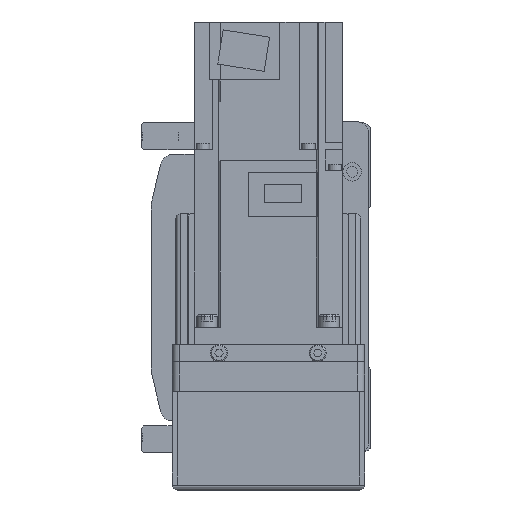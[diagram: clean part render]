
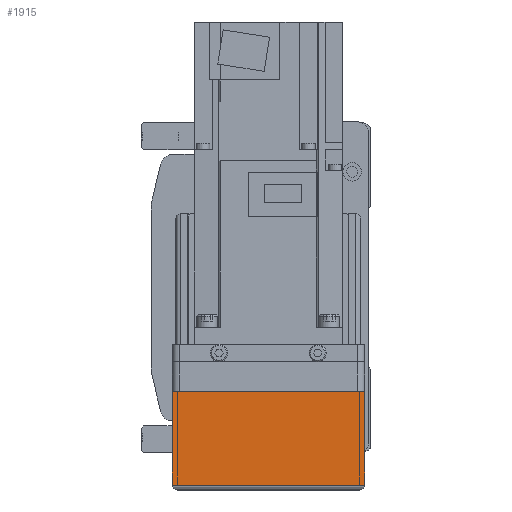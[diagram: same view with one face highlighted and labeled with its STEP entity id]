
A CAD part, left-side view. The second image highlights one B-rep face of the part: STEP entity #1915.
In plain terms, the highlighted planar face has unit normal (-1, 0, 0).
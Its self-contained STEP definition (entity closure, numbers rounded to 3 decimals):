
#1915 = ADVANCED_FACE( '', ( #4536 ), #4537, .F. );
#4536 = FACE_OUTER_BOUND( '', #8040, .T. );
#4537 = PLANE( '', #8041 );
#8040 = EDGE_LOOP( '', ( #13336, #13337, #13338, #13339 ) );
#8041 = AXIS2_PLACEMENT_3D( '', #13340, #13341, #13342 );
#13336 = ORIENTED_EDGE( '', *, *, #20463, .F. );
#13337 = ORIENTED_EDGE( '', *, *, #21397, .F. );
#13338 = ORIENTED_EDGE( '', *, *, #21398, .T. );
#13339 = ORIENTED_EDGE( '', *, *, #21374, .F. );
#13340 = CARTESIAN_POINT( '', ( -158., 36., 7. ) );
#13341 = DIRECTION( '', ( 1., 0., 0. ) );
#13342 = DIRECTION( '', ( 0., 0., -1. ) );
#20463 = EDGE_CURVE( '', #24628, #24630, #24631, .T. );
#21374 = EDGE_CURVE( '', #24630, #26122, #26123, .T. );
#21397 = EDGE_CURVE( '', #26159, #24628, #26160, .T. );
#21398 = EDGE_CURVE( '', #26159, #26122, #26161, .T. );
#24628 = VERTEX_POINT( '', #30823 );
#24630 = VERTEX_POINT( '', #30826 );
#24631 = LINE( '', #30827, #30828 );
#26122 = VERTEX_POINT( '', #32942 );
#26123 = LINE( '', #32943, #32944 );
#26159 = VERTEX_POINT( '', #33007 );
#26160 = LINE( '', #33008, #33009 );
#26161 = LINE( '', #33010, #33011 );
#30823 = CARTESIAN_POINT( '', ( -158., 39., -12.1 ) );
#30826 = CARTESIAN_POINT( '', ( -158., -39., -12.1 ) );
#30827 = CARTESIAN_POINT( '', ( -158., 50., -12.1 ) );
#30828 = VECTOR( '', #37824, 1000. );
#32942 = CARTESIAN_POINT( '', ( -158., -39., -50. ) );
#32943 = CARTESIAN_POINT( '', ( -158., -39., -12.1 ) );
#32944 = VECTOR( '', #38991, 1000. );
#33007 = CARTESIAN_POINT( '', ( -158., 39., -50. ) );
#33008 = CARTESIAN_POINT( '', ( -158., 39., -50. ) );
#33009 = VECTOR( '', #39012, 1000. );
#33010 = CARTESIAN_POINT( '', ( -158., 40., -50. ) );
#33011 = VECTOR( '', #39013, 1000. );
#37824 = DIRECTION( '', ( 0., -1., 0. ) );
#38991 = DIRECTION( '', ( 0., 0., -1. ) );
#39012 = DIRECTION( '', ( 0., 0., 1. ) );
#39013 = DIRECTION( '', ( 0., -1., 0. ) );
